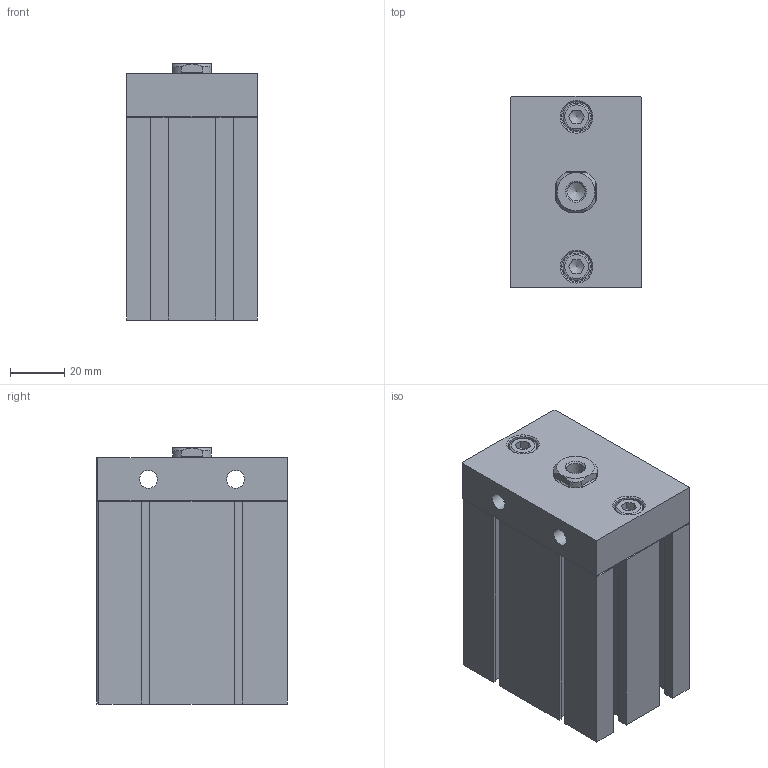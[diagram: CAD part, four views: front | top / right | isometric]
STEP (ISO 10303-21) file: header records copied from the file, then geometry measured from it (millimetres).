
FILE_DESCRIPTION((''),'2;1');
FILE_NAME('I:\3D電子目錄\氣缸\ND\ND\ND40\ND40x40.stp','2007-07-30T19:06:43',('Administrator'),(''),'Autodesk Inventor 11','Autodesk Inventor 11','');
FILE_SCHEMA(('AUTOMOTIVE_DESIGN { 1 0 10303 214 1 1 1 1 }'));
Length unit declared in the file: millimetre
Products named in the file (4): ND40; R 形環 42; ISO 4762 M6 x 20
Assembly tree (4 placements, depth 2):
  ND40
    ND40
    R 形環 42
    ISO 4762 M6 x 20  x2
Bounding box: 48 x 70.1 x 94 mm (x, y, z)
Volume: 271909.7 mm3; surface area: 46197.2 mm2
Topology: 5 solids, 5 shells, 195 faces, 467 edges, 297 vertices
Faces by surface type: plane 133, cylinder 25, cone 18, bspline 16, torus 3
Full cylindrical faces by diameter (mm): 1.9 x2, 2.2 x2, 6 x2, 6.5 x2, 10 x2, 11 x2, 29 x1, 42 x1, 44.5 x1
Entity records: 5217 total; most frequent: CARTESIAN_POINT 1095, DIRECTION 812, ORIENTED_EDGE 782, EDGE_CURVE 391, VECTOR 288, LINE 288, VERTEX_POINT 271, AXIS2_PLACEMENT_3D 262
